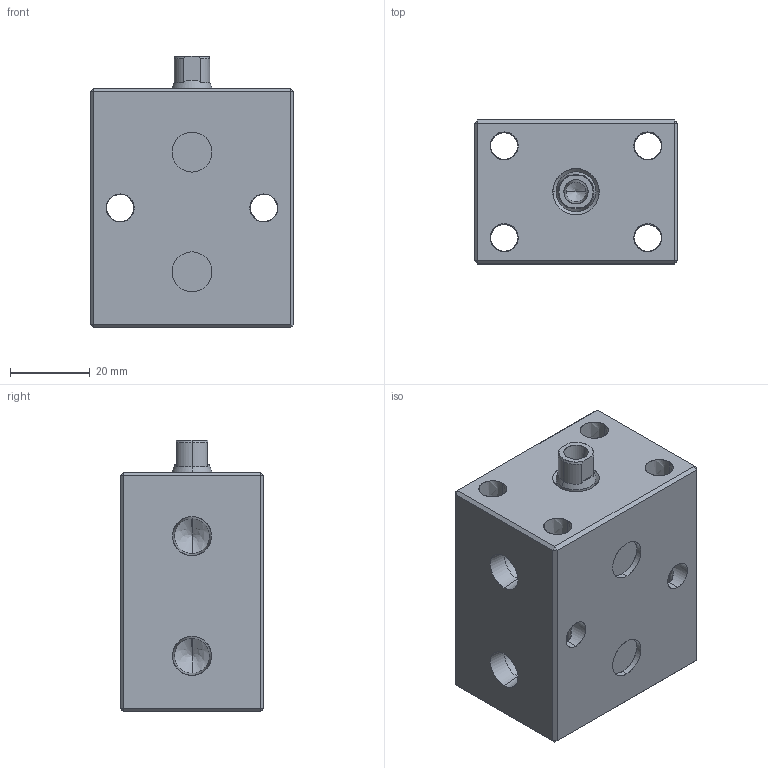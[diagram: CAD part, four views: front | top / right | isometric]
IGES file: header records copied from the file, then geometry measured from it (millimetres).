
Start section: SolidWorks IGES file using analytic representation for surfaces
Global section: file name: E:\ALL-SSVT-BLOCK\IGS-MODEL\BC04-16-16-F.IGS; native system: SolidWorks 2019; preprocessor: SolidWorks 2019; author: SSVT; date: 210823.152623; units: millimetre
Bounding box: 51 x 36 x 68 mm (x, y, z)
Surface area: 23406.7 mm2 (no closed solid volume)
Topology: 0 solids, 0 shells, 97 faces, 1637 edges, 1631 vertices
Faces by surface type: revolution 64, bspline 33
